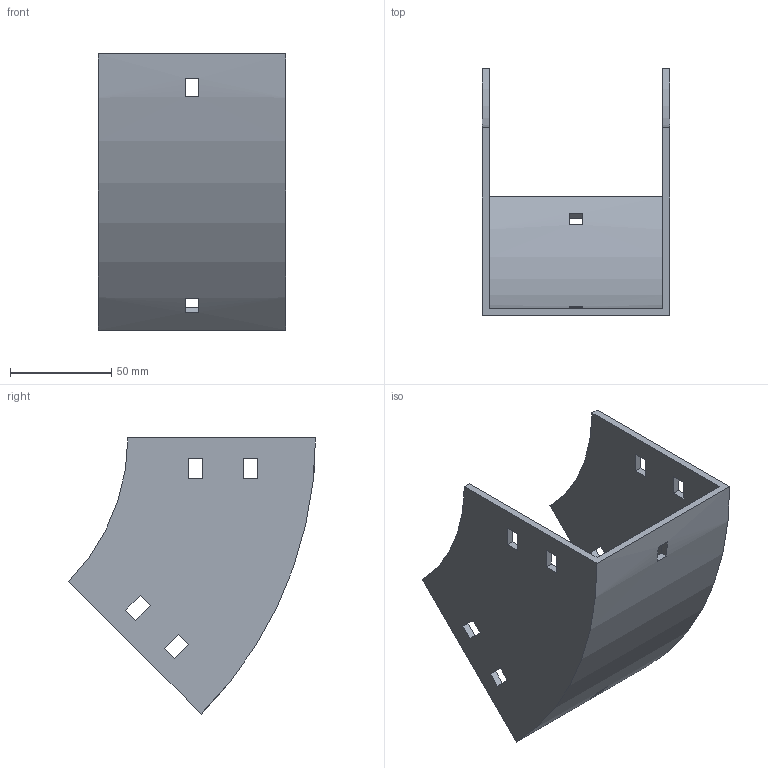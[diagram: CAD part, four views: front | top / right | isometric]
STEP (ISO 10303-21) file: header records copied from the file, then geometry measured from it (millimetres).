
FILE_DESCRIPTION (( 'STEP AP214' ), '1' );
FILE_NAME ('31B1I092.step', '2025-02-21T09:47:59', ( '' ), ( '' ), 'SwSTEP 2.0', 'SolidWorks 2023', '' );
FILE_SCHEMA (( 'AUTOMOTIVE_DESIGN' ));
Length unit declared in the file: millimetre
Products named in the file (1): 31B1I092
Bounding box: 92.5 x 121.79 x 136.12 mm (x, y, z)
Volume: 116835.7 mm3; surface area: 70386 mm2
Topology: 1 solids, 1 shells, 50 faces, 144 edges, 96 vertices
Faces by surface type: plane 46, cylinder 4
Entity records: 1687 total; most frequent: CARTESIAN_POINT 291, ORIENTED_EDGE 288, DIRECTION 262, EDGE_CURVE 144, VECTOR 128, LINE 128, VERTEX_POINT 96, EDGE_LOOP 70
